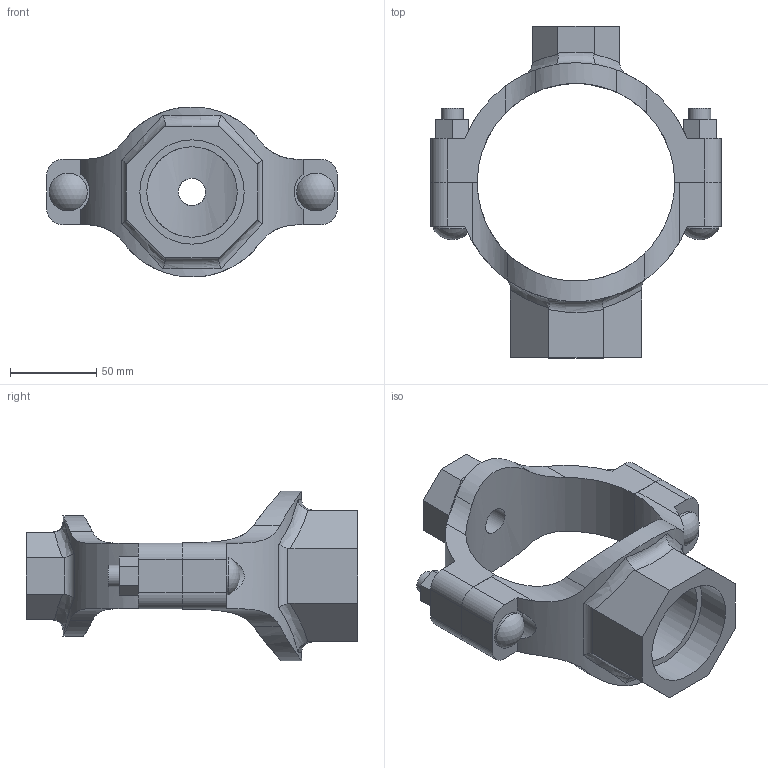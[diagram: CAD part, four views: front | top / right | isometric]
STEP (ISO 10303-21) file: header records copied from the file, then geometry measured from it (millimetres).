
FILE_DESCRIPTION(/* description */ ('VIC MECH-T BRANCH OUTLET CROSS STYLE 920N (THD)','CAx-IF Rec.Pracs.---Representation and Presentation of Product Manufacturing Information (PMI)---4.0---2014-10-13'),/* implementation_level */ '2;1');
FILE_NAME(/* name */ 'C:\Users\Vjadhav\AppData\Roaming\Autodesk\ApplicationPlugins\Back Up\Victaulic_IPS_Mechanical-Cross Outlet_Style 920N (FPT)\Victaulic_IPS_Mechanical-Cross Outlet_04.0x0.5x02.0 (100x15x50).stp',/* time_stamp */ '2020-08-06T18:58:04+05:00',/* author */ ('Vjadhav'),/* organization */ ('Victaulic'),/* preprocessor_version */ 'ST-DEVELOPER v17.2',/* originating_system */ 'Autodesk Inventor 2019',/* authorisation */ '');
FILE_SCHEMA (('AP242_MANAGED_MODEL_BASED_3D_ENGINEERING_MIM_LF { 1 0 10303 442 1 1 4 }'));
Length unit declared in the file: inch
Products named in the file (3): 920NT-04.0x0.5x02.0; 920NT-04.0x0.5; 920NT-04.0x02.0
Assembly tree (2 placements, depth 2):
  920NT-04.0x0.5x02.0
    920NT-04.0x0.5
    920NT-04.0x02.0
Bounding box: 168.4 x 192.02 x 98.37 mm (x, y, z)
Volume: 410333.7 mm3; surface area: 92301.9 mm2
Topology: 2 solids, 2 shells, 132 faces, 350 edges, 236 vertices
Faces by surface type: plane 68, cylinder 50, bspline 8, torus 4, sphere 2
Full cylindrical faces by diameter (mm): 12.7 x4, 15.799 x1, 21.336 x1, 21.982 x2, 52.387 x1, 60.325 x1
Entity records: 5300 total; most frequent: CARTESIAN_POINT 1787, ORIENTED_EDGE 700, DIRECTION 648, EDGE_CURVE 350, VERTEX_POINT 236, AXIS2_PLACEMENT_3D 231, LINE 186, VECTOR 186
